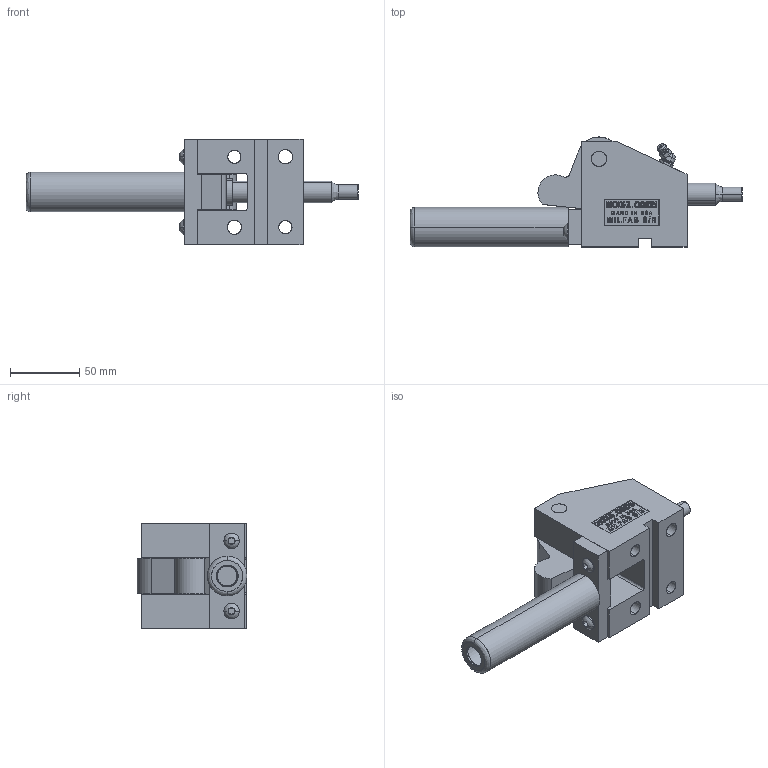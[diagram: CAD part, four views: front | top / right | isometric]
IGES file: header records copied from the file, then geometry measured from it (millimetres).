
Start section: SolidWorks IGES file using analytic representation for surfaces
Global section: file name: Y:\JIM'S INCH CAM UNITS\OS62545\CLOSED\OS62545-C.IGS; native system: SolidWorks 2006 by SolidWorks Corporation; preprocessor: SolidWorks 2006 by SolidWorks Corporation; author: Jim; date: 090206.084859; units: inch
Bounding box: 239.57 x 79.37 x 76.2 mm (x, y, z)
Surface area: 94544.4 mm2 (no closed solid volume)
Topology: 0 solids, 0 shells, 590 faces, 7721 edges, 7719 vertices
Faces by surface type: bspline 470, revolution 120
